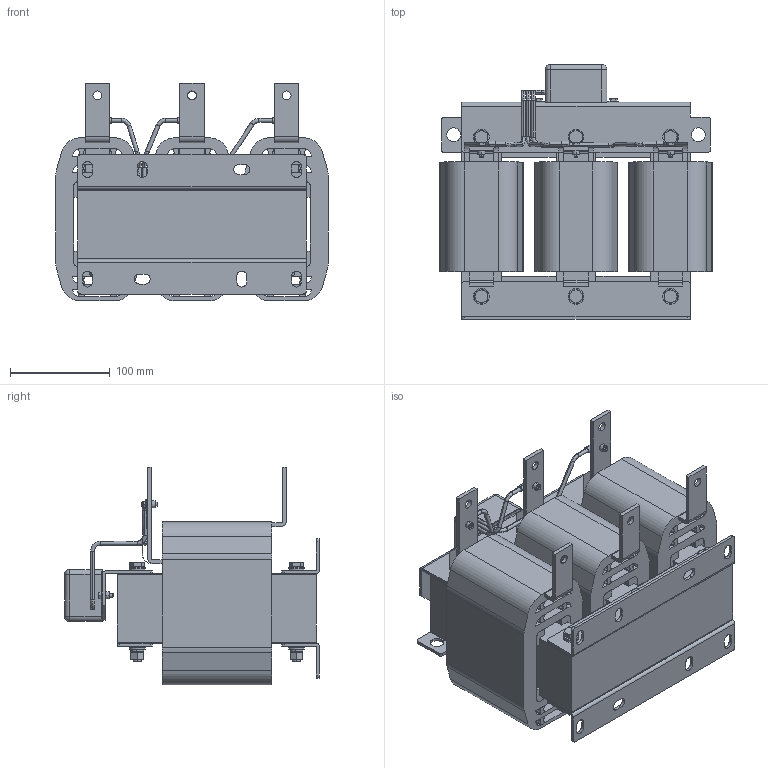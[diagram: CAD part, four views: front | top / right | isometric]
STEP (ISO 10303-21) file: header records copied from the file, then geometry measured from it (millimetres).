
FILE_DESCRIPTION (( 'STEP AP203' ), '1' );
FILE_NAME ('婰錪襝 dU_dT _ IDUDT-90_115-6.STEP', '2026-05-06T10:24:28', ( '' ), ( '' ), 'SwSTEP 2.0', 'SolidWorks 2021', '' );
FILE_SCHEMA (( 'CONFIG_CONTROL_DESIGN' ));
Length unit declared in the file: millimetre
Products named in the file (68): DVT-线圈-90kW_28; DVT-线圈-90kW_32; DVT-线圈-90kW_14; 电容引线-90kW; DVT-线圈-90kW_23; DVT-线圈-90kW_2; M4す菜; ﾉﾏｼﾐｼ250｡ﾁ35｡ﾁ3; 嶺啣沭40-200; DVT-线圈-90kW_7; 0.25橈埽祧-35; M8ﾂﾝﾄｸ+ｵｯ+ﾋｫﾆｽ_1; RNB1.25-4; DVT-线圈-90kW_13; DVT-线圈-90kW_6; DVT-线圈-90kW_12; RNB3.5-4; DVT-线圈-90kW_35; DVT-线圈-90kW_36; DVT-线圈-90kW_17; DVT-线圈-90kW_22; DVT-线圈-90kW_37; DVT-线圈-90kW_10; 婰錪襝 dU_dT _ IDUDT-90_115-6; DVT-线圈-90kW_29; ﾉﾏｼﾐｼ-250｡ﾁ50｡ﾁ50; DVT-线圈-90kW_21; M8ﾂﾝﾄｸ+ｵｯ+ﾋｫﾆｽ_5; M4℅12坋趼鞠褒芛蹟邡; DVT-线圈-90kW_31; plain washers--product grade c gb_GB_FASTENER_WASHER_SMWC 8; DVT-线圈-90kW_20; DVT-线圈-90kW_18; DVT-线圈-90kW_19; M8ﾂﾝﾄｸ+ｵｯ+ﾋｫﾆｽ_2; M8ﾂﾝﾄｸ+ｵｯ+ﾋｫﾆｽ_3; DVT-线圈-90kW_5; DVT-线圈-90kW; DVT-线圈-90kW_16; 电容盒-SKS-0901.601-LJ-A2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
Assembly tree (124 placements, depth 3):
  婰錪襝 dU_dT _ IDUDT-90_115-6
    三相铁芯230-40-68-H200
    嶺啣沭40-200  x6
    ﾉﾏｼﾐｼ250｡ﾁ35｡ﾁ3
    ﾏﾂｼﾐｼ-230｡ﾁ38｡ﾁ35  x2
    plain washers--product grade c gb_GB_FASTENER_WASHER_SMWC 8  x12
    M8℅95蹟裝  x6
    M8ﾂﾝﾄｸ+ｵｯ+ﾋｫﾆｽ
      hex nut-fine pitch-style washer-grade ab gb_GB_HEXAGON_TYPE10_1 M8X1-N
      spring lock washers--normal type gb_GB_FASTENER_WASHER_SW 8
      plain washers--product grade c gb_GB_FASTENER_WASHER_SMWC 8  x2
    M8ﾂﾝﾄｸ+ｵｯ+ﾋｫﾆｽ_1
      hex nut-fine pitch-style washer-grade ab gb_GB_HEXAGON_TYPE10_1 M8X1-N
      spring lock washers--normal type gb_GB_FASTENER_WASHER_SW 8
      plain washers--product grade c gb_GB_FASTENER_WASHER_SMWC 8  x2
    DVT-外出线排25×4-60  x3
    M8ﾂﾝﾄｸ+ｵｯ+ﾋｫﾆｽ_2
      hex nut-fine pitch-style washer-grade ab gb_GB_HEXAGON_TYPE10_1 M8X1-N
      spring lock washers--normal type gb_GB_FASTENER_WASHER_SW 8
      plain washers--product grade c gb_GB_FASTENER_WASHER_SMWC 8  x2
    M8ﾂﾝﾄｸ+ｵｯ+ﾋｫﾆｽ_3
      hex nut-fine pitch-style washer-grade ab gb_GB_HEXAGON_TYPE10_1 M8X1-N
      spring lock washers--normal type gb_GB_FASTENER_WASHER_SW 8
      plain washers--product grade c gb_GB_FASTENER_WASHER_SMWC 8  x2
    M8ﾂﾝﾄｸ+ｵｯ+ﾋｫﾆｽ_4
      hex nut-fine pitch-style washer-grade ab gb_GB_HEXAGON_TYPE10_1 M8X1-N
      spring lock washers--normal type gb_GB_FASTENER_WASHER_SW 8
      plain washers--product grade c gb_GB_FASTENER_WASHER_SMWC 8  x2
    M8ﾂﾝﾄｸ+ｵｯ+ﾋｫﾆｽ_5
      hex nut-fine pitch-style washer-grade ab gb_GB_HEXAGON_TYPE10_1 M8X1-N
      spring lock washers--normal type gb_GB_FASTENER_WASHER_SW 8
      plain washers--product grade c gb_GB_FASTENER_WASHER_SMWC 8  x2
    ﾉﾏｼﾐｼ-250｡ﾁ50｡ﾁ50
    电容盒-SKS-0901.601-LJ-A2
    M4℅12坋趼鞠褒芛蹟邡  x5
    DVT-内出线排25×4-90kW  x3
    RNB1.25-4
    M4す菜  x3
    RNB3.5-4  x2
    电容引线-90kW
      电容引线-90kW_2
      电容引线-90kW
      电容引线-90kW_1
    0.25橈埽祧-35  x3
    DVT-线圈-90kW
      DVT-线圈-90kW_1
      DVT-线圈-90kW_12
      DVT-线圈-90kW_37
      DVT-线圈-90kW_27
      DVT-线圈-90kW_13
      DVT-线圈-90kW_2
      DVT-线圈-90kW_29
      DVT-线圈-90kW
      DVT-线圈-90kW_4
      DVT-线圈-90kW_21
      DVT-线圈-90kW_9
      DVT-线圈-90kW_25
      DVT-线圈-90kW_32
      DVT-线圈-90kW_20
      DVT-线圈-90kW_5
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Bounding box: 274 x 256 x 219 mm (x, y, z)
Volume: 5326684.4 mm3; surface area: 1082945.2 mm2
Topology: 116 solids, 116 shells, 1726 faces, 4194 edges, 2736 vertices
Faces by surface type: plane 891, cylinder 638, cone 166, bspline 26, sphere 5
Entity records: 39811 total; most frequent: CARTESIAN_POINT 5774, DIRECTION 5601, ORIENTED_EDGE 5036, EDGE_CURVE 2518, AXIS2_PLACEMENT_3D 2011, VERTEX_POINT 1656, VECTOR 1579, LINE 1579
